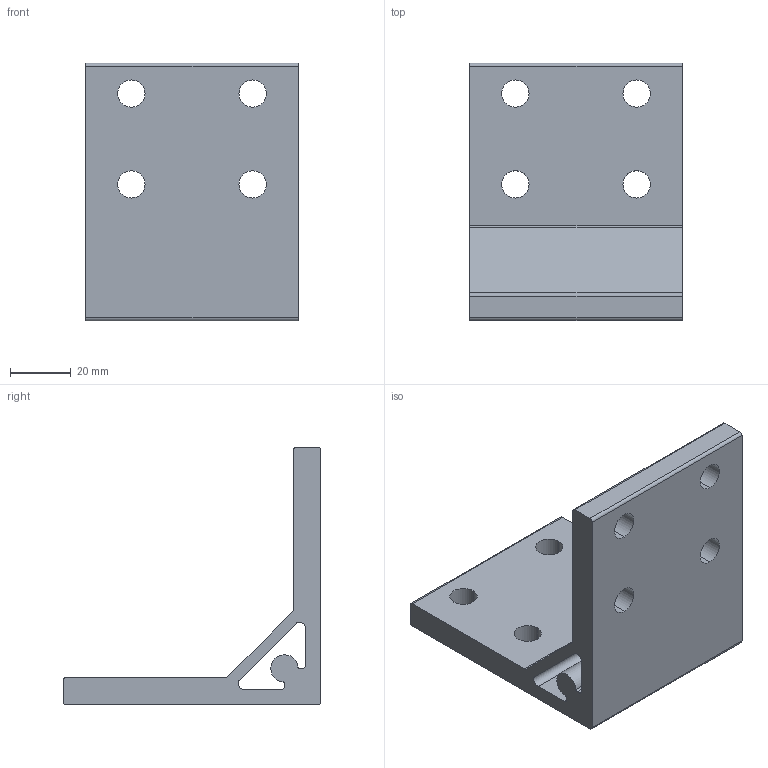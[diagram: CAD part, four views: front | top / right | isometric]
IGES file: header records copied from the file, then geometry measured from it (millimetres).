
Start section: SolidWorks IGES file using analytic representation for surfaces
Global section: file name: C:\Documents and Settings\Administrator\デスクトップ\指定保存後4回目\SolidWorks\SF\SF40・45\Bracket\ハードブラケットLW4080\SFJ-N20.IGS,41HSolidWorks 2006 by; native system: SolidWorks Corporation; preprocessor: SolidWorks 2006 by SolidWorks Corporation; author: Administrator; date: 061218.101607; units: millimetre
Bounding box: 70 x 85 x 85 mm (x, y, z)
Volume: 99253 mm3; surface area: 32788.5 mm2
Topology: 1 solids, 1 shells, 44 faces, 126 edges, 84 vertices
Faces by surface type: revolution 30, plane 14
